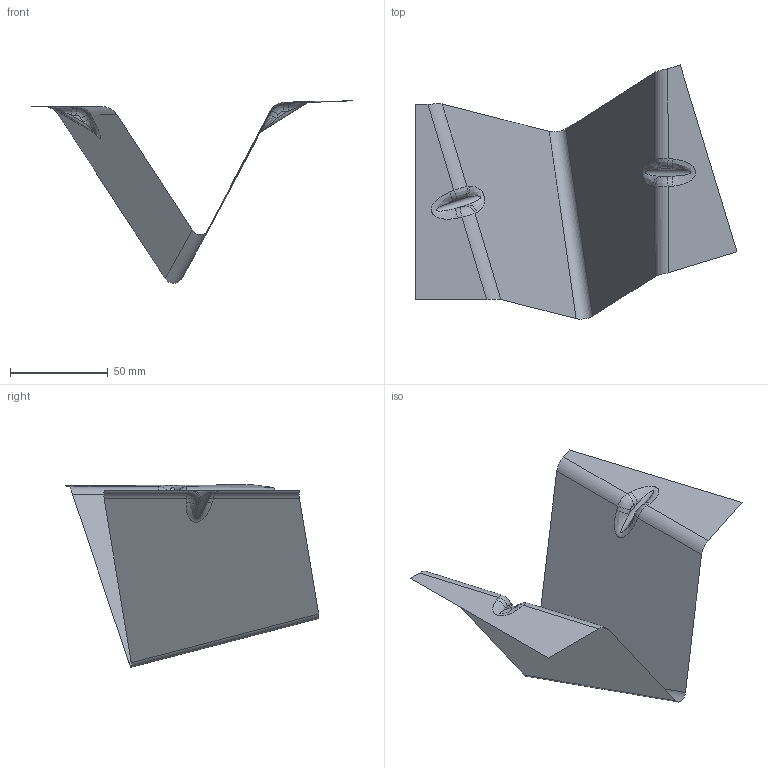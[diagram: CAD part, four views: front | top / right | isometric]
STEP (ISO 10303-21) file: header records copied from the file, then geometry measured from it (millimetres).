
FILE_DESCRIPTION(('CATIA V5 STEP Exchange'),'2;1');
FILE_NAME('C:\_Andres\UNIVERSIDAD\IQS\ASIGNATURAS\DAO\EXF\EXF-16172c\2inicio\Pares_Guanybens_Ej03_v21.stp','2017-03-05T19:32:22+00:00',('none'),('none'),'CATIA Version 5-6 Release 2014 SP1 HF18','CATIA V5 STEP AP203','none');
FILE_SCHEMA(('CONFIG_CONTROL_DESIGN'));
Length unit declared in the file: millimetre
Products named in the file (1): Pares_Guanybens_Ej03_v21
Bounding box: 164.74 x 129.94 x 93.35 mm (x, y, z)
Surface area: 24548.6 mm2 (no closed solid volume)
Topology: 0 solids, 1 shells, 31 faces, 78 edges, 48 vertices
Faces by surface type: cylinder 15, plane 8, bspline 8
Entity records: 2443 total; most frequent: CARTESIAN_POINT 1770, ORIENTED_EDGE 140, DIRECTION 90, EDGE_CURVE 78, VERTEX_POINT 48, VECTOR 40, LINE 40, ADVANCED_FACE 31
